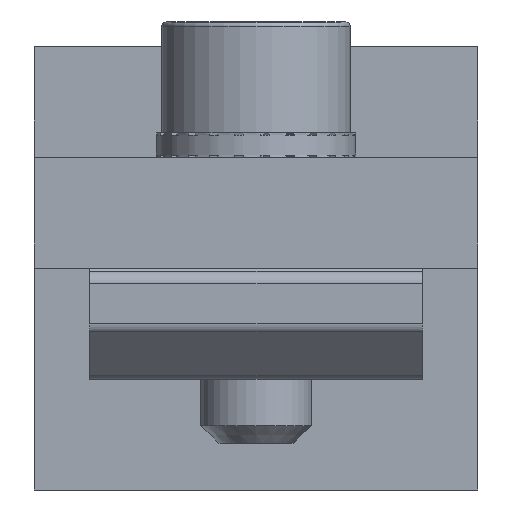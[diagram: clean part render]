
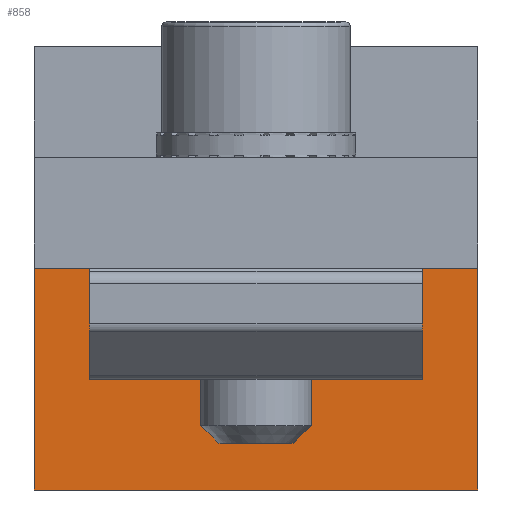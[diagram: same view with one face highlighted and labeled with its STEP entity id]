
A CAD part, left-side view. The second image highlights one B-rep face of the part: STEP entity #858.
In plain terms, the highlighted planar face has unit normal (-1, 0, 0).
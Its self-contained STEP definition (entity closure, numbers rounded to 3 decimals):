
#858=ADVANCED_FACE('',(#1670),#1671,.T.);
#1670=FACE_OUTER_BOUND('',#2452,.T.);
#1671=PLANE('',#2453);
#2452=EDGE_LOOP('',(#4849,#4850,#4851,#4852));
#2453=AXIS2_PLACEMENT_3D('',#4853,#4854,#4855);
#4849=ORIENTED_EDGE('',*,*,#5792,.T.);
#4850=ORIENTED_EDGE('',*,*,#5818,.F.);
#4851=ORIENTED_EDGE('',*,*,#5826,.F.);
#4852=ORIENTED_EDGE('',*,*,#5800,.F.);
#4853=CARTESIAN_POINT('',(-1.0,45.0,0.));
#4854=DIRECTION('',(-1.0,0.0,0.0));
#4855=DIRECTION('',(0.0,0.0,1.0));
#5792=EDGE_CURVE('',#7207,#7208,#7209,.T.);
#5800=EDGE_CURVE('',#7207,#7221,#7222,.T.);
#5818=EDGE_CURVE('',#7246,#7208,#7248,.T.);
#5826=EDGE_CURVE('',#7221,#7246,#7260,.T.);
#7207=VERTEX_POINT('',#9145);
#7208=VERTEX_POINT('',#9146);
#7209=LINE('',#9147,#9148);
#7221=VERTEX_POINT('',#9166);
#7222=LINE('',#9167,#9168);
#7246=VERTEX_POINT('',#9201);
#7248=LINE('',#9204,#9205);
#7260=LINE('',#9217,#9218);
#9145=CARTESIAN_POINT('',(-1.0,20.0,-10.0));
#9146=CARTESIAN_POINT('',(-1.0,0.0,-10.0));
#9147=CARTESIAN_POINT('',(-1.0,45.0,-10.0));
#9148=VECTOR('',#10347,1.0);
#9166=CARTESIAN_POINT('',(-1.0,20.0,0.));
#9167=CARTESIAN_POINT('',(-1.0,20.0,10.0));
#9168=VECTOR('',#10354,1.0);
#9201=CARTESIAN_POINT('',(-1.0,0.0,0.));
#9204=CARTESIAN_POINT('',(-1.0,0.0,0.));
#9205=VECTOR('',#10374,1.0);
#9217=CARTESIAN_POINT('',(-1.0,45.0,0.));
#9218=VECTOR('',#10387,1.0);
#10347=DIRECTION('',(0.0,-1.0,0.0));
#10354=DIRECTION('',(0.0,0.0,1.0));
#10374=DIRECTION('',(0.0,0.0,-1.0));
#10387=DIRECTION('',(0.0,-1.0,0.0));
